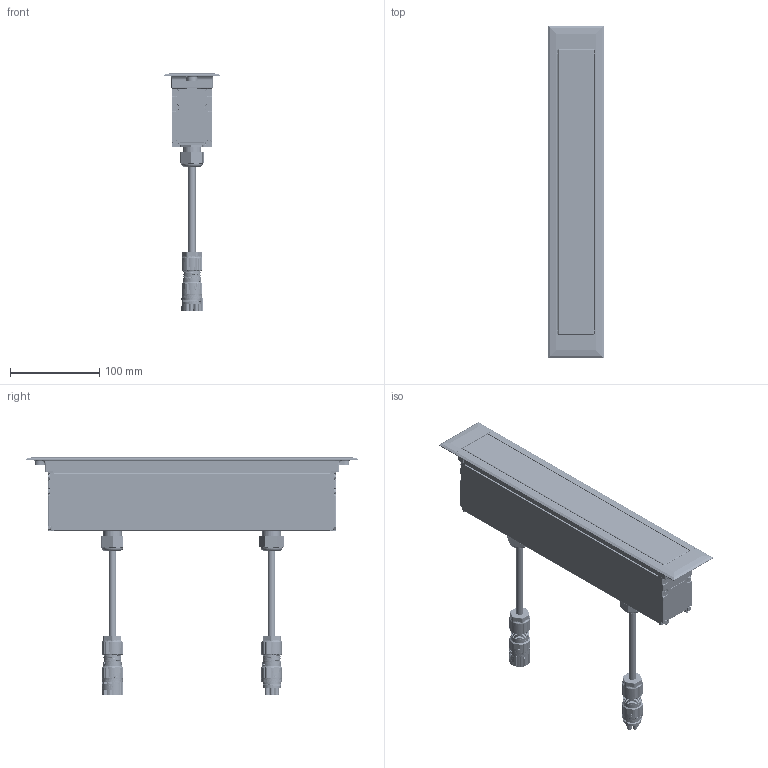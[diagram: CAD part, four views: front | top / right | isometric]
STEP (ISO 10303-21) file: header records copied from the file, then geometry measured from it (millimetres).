
FILE_DESCRIPTION(/* description */ ('Unknown'),/* implementation_level */ '2;1');
FILE_NAME(/* name */ 'ARCHILINE A 14.6',/* time_stamp */ '2023-01-24T02:08:45-05:00',/* author */ ('Unknown'),/* organization */ ('Unknown'),/* preprocessor_version */ 'ST-DEVELOPER v18.1',/* originating_system */ 'Solid Edge',/* authorisation */ 'Unknown');
FILE_SCHEMA (('AUTOMOTIVE_DESIGN {1 0 10303 214 3 1 1}'));
Products named in the file (1): ARCHILINE A 14.6
Bounding box: 62 x 371 x 266.28 mm (x, y, z)
Volume: 84337.1 mm3; surface area: 313000.3 mm2
Topology: 13 solids, 14 shells, 6542 faces, 19345 edges, 12801 vertices
Faces by surface type: plane 4004, cylinder 1369, bspline 636, cone 267, torus 170, sphere 96
Full cylindrical faces by diameter (mm): 2 x5, 2.2 x6, 2.494 x1, 2.5 x6, 2.9 x4, 2.964 x2, 3 x2, 3.5 x4, 3.8 x6, 4 x2, 4.922 x2, 5.5 x2, 6 x4, 6.5 x12, 7.9 x1, 8.13 x2, 12 x1, 17 x1, 17.168 x2, 18.724 x2, 19 x10, 19.919 x2, 20.14 x6, 20.317 x1, 20.4 x2, 20.5 x2, 20.6 x2, 21.232 x2, 21.34 x6, 22.9 x2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
Entity records: 842616 total; most frequent: CARTESIAN_POINT 631744, ORIENTED_EDGE 37726, DIRECTION 31726, EDGE_CURVE 18863, VERTEX_POINT 12633, AXIS2_PLACEMENT_3D 11512, LINE 8702, VECTOR 8702
